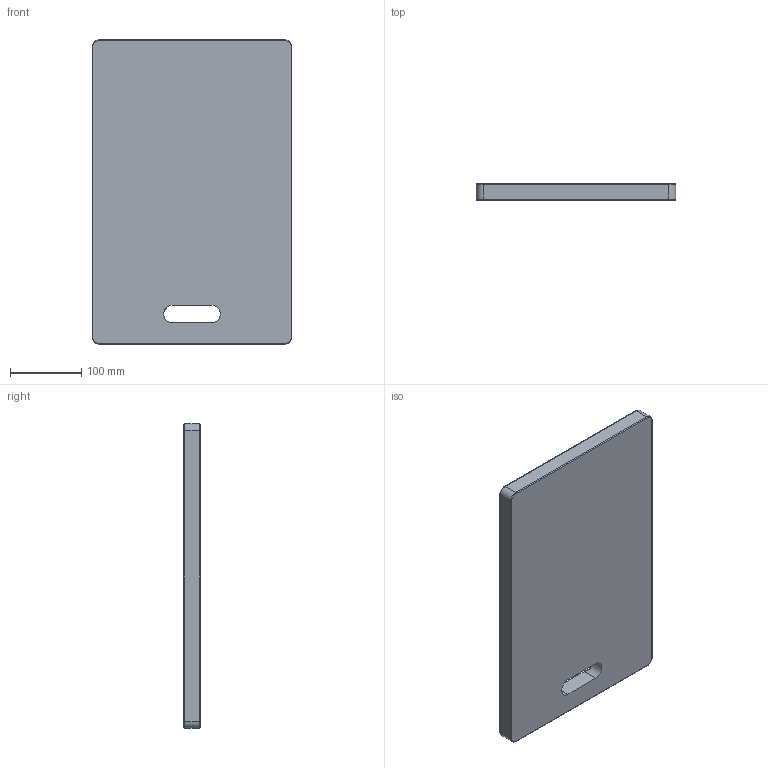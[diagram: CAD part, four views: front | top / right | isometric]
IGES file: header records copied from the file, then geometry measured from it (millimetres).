
Start section:  PTC IGES file: sku_cb01_igs.igs
Global section: file name: sku_cb01_igs.igs; native system: Creo Parametric by PTC Inc.; preprocessor: 2020281; author: ychen6; organization: Unknown; date: 20221017.152259; units: inch
Bounding box: 280 x 23 x 427 mm (x, y, z)
Surface area: 275357.7 mm2 (no closed solid volume)
Topology: 0 solids, 0 shells, 48 faces, 248 edges, 248 vertices
Faces by surface type: revolution 39, bspline 9
